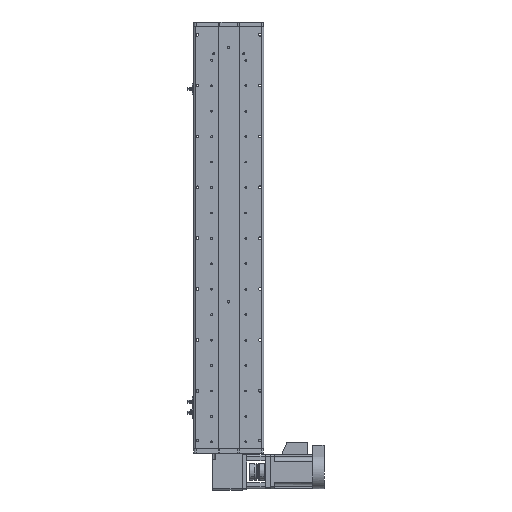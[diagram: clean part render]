
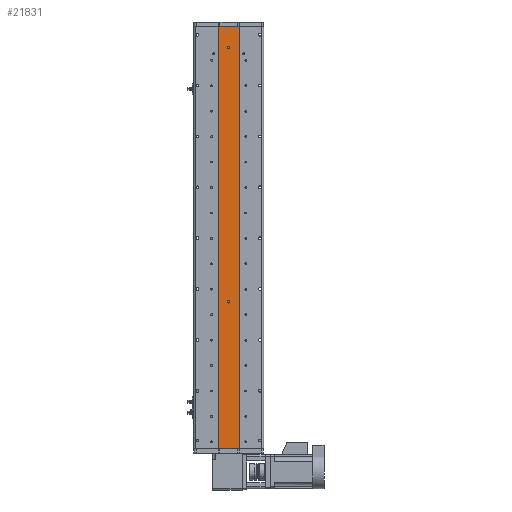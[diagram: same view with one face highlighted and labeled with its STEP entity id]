
A CAD part, front view. The second image highlights one B-rep face of the part: STEP entity #21831.
In plain terms, the highlighted planar face has unit normal (0, -1, 0).
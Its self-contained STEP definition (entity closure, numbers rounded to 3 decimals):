
#615 = VERTEX_POINT ( 'NONE', #14336 ) ;
#869 = DIRECTION ( 'NONE',  ( 0., 0., -1. ) ) ;
#1078 = CIRCLE ( 'NONE', #29830, 3. ) ;
#1245 = VECTOR ( 'NONE', #36750, 1000. ) ;
#1642 = VECTOR ( 'NONE', #33367, 1000. ) ;
#2089 = CARTESIAN_POINT ( 'NONE',  ( 0., 1., -154.5 ) ) ;
#4620 = PLANE ( 'NONE',  #13255 ) ;
#5405 = VECTOR ( 'NONE', #18581, 1000. ) ;
#5518 = CARTESIAN_POINT ( 'NONE',  ( 0., 1., 445.5 ) ) ;
#6028 = CARTESIAN_POINT ( 'NONE',  ( 0., 1., 448.5 ) ) ;
#7107 = DIRECTION ( 'NONE',  ( 0., -1., 0. ) ) ;
#7763 = ORIENTED_EDGE ( 'NONE', *, *, #16378, .T. ) ;
#7966 = VERTEX_POINT ( 'NONE', #18527 ) ;
#9178 = VERTEX_POINT ( 'NONE', #47768 ) ;
#9774 = DIRECTION ( 'NONE',  ( 0., 0., -1. ) ) ;
#10697 = CIRCLE ( 'NONE', #41801, 3. ) ;
#10849 = CIRCLE ( 'NONE', #35154, 3. ) ;
#10963 = FACE_BOUND ( 'NONE', #44994, .T. ) ;
#11089 = CARTESIAN_POINT ( 'NONE',  ( -25., 1., 498.5 ) ) ;
#12717 = LINE ( 'NONE', #26960, #32487 ) ;
#13255 = AXIS2_PLACEMENT_3D ( 'NONE', #26963, #38139, #15908 ) ;
#14336 = CARTESIAN_POINT ( 'NONE',  ( 0., 1., -148.5 ) ) ;
#14893 = VERTEX_POINT ( 'NONE', #46386 ) ;
#15134 = ORIENTED_EDGE ( 'NONE', *, *, #46894, .F. ) ;
#15572 = DIRECTION ( 'NONE',  ( 0., -1., 0. ) ) ;
#15908 = DIRECTION ( 'NONE',  ( 0., 0., 1. ) ) ;
#16378 = EDGE_CURVE ( 'NONE', #7966, #42745, #35425, .T. ) ;
#16629 = DIRECTION ( 'NONE',  ( 0., -1., 0. ) ) ;
#18527 = CARTESIAN_POINT ( 'NONE',  ( -25., 1., 498.5 ) ) ;
#18581 = DIRECTION ( 'NONE',  ( 1., 0., 0. ) ) ;
#19143 = VERTEX_POINT ( 'NONE', #2089 ) ;
#19857 = ORIENTED_EDGE ( 'NONE', *, *, #24339, .F. ) ;
#20466 = EDGE_LOOP ( 'NONE', ( #15134, #28542 ) ) ;
#20882 = FACE_OUTER_BOUND ( 'NONE', #23641, .T. ) ;
#21173 = AXIS2_PLACEMENT_3D ( 'NONE', #29423, #7107, #33157 ) ;
#21831 = ADVANCED_FACE ( 'NONE', ( #31917, #10963, #20882 ), #4620, .F. ) ;
#22836 = ORIENTED_EDGE ( 'NONE', *, *, #23868, .T. ) ;
#23641 = EDGE_LOOP ( 'NONE', ( #22836, #45429, #32800, #7763 ) ) ;
#23868 = EDGE_CURVE ( 'NONE', #42745, #42018, #25243, .T. ) ;
#24339 = EDGE_CURVE ( 'NONE', #615, #19143, #46736, .T. ) ;
#25243 = LINE ( 'NONE', #33517, #5405 ) ;
#25682 = ORIENTED_EDGE ( 'NONE', *, *, #44233, .F. ) ;
#26960 = CARTESIAN_POINT ( 'NONE',  ( 25., 1., 498.5 ) ) ;
#26963 = CARTESIAN_POINT ( 'NONE',  ( 25., 1., 498.5 ) ) ;
#28542 = ORIENTED_EDGE ( 'NONE', *, *, #48109, .F. ) ;
#29423 = CARTESIAN_POINT ( 'NONE',  ( 0., 1., -151.5 ) ) ;
#29697 = VERTEX_POINT ( 'NONE', #5518 ) ;
#29806 = LINE ( 'NONE', #40573, #1245 ) ;
#29830 = AXIS2_PLACEMENT_3D ( 'NONE', #6028, #32057, #9774 ) ;
#31917 = FACE_BOUND ( 'NONE', #20466, .T. ) ;
#32057 = DIRECTION ( 'NONE',  ( 0., -1., 0. ) ) ;
#32487 = VECTOR ( 'NONE', #869, 1000. ) ;
#32800 = ORIENTED_EDGE ( 'NONE', *, *, #34589, .F. ) ;
#32976 = EDGE_CURVE ( 'NONE', #9178, #42018, #12717, .T. ) ;
#33157 = DIRECTION ( 'NONE',  ( 0., 0., -1. ) ) ;
#33367 = DIRECTION ( 'NONE',  ( 0., 0., -1. ) ) ;
#33517 = CARTESIAN_POINT ( 'NONE',  ( 25., 1., -498.5 ) ) ;
#34589 = EDGE_CURVE ( 'NONE', #7966, #9178, #29806, .T. ) ;
#35154 = AXIS2_PLACEMENT_3D ( 'NONE', #38849, #16629, #42540 ) ;
#35425 = LINE ( 'NONE', #11089, #1642 ) ;
#36750 = DIRECTION ( 'NONE',  ( 1., 0., 0. ) ) ;
#37820 = CARTESIAN_POINT ( 'NONE',  ( 0., 1., -151.5 ) ) ;
#38139 = DIRECTION ( 'NONE',  ( 0., 1., 0. ) ) ;
#38849 = CARTESIAN_POINT ( 'NONE',  ( 0., 1., 448.5 ) ) ;
#40573 = CARTESIAN_POINT ( 'NONE',  ( 25., 1., 498.5 ) ) ;
#41006 = CARTESIAN_POINT ( 'NONE',  ( 25., 1., -498.5 ) ) ;
#41488 = DIRECTION ( 'NONE',  ( 0., 0., -1. ) ) ;
#41801 = AXIS2_PLACEMENT_3D ( 'NONE', #37820, #15572, #41488 ) ;
#42018 = VERTEX_POINT ( 'NONE', #41006 ) ;
#42540 = DIRECTION ( 'NONE',  ( 0., 0., -1. ) ) ;
#42745 = VERTEX_POINT ( 'NONE', #43813 ) ;
#43813 = CARTESIAN_POINT ( 'NONE',  ( -25., 1., -498.5 ) ) ;
#44233 = EDGE_CURVE ( 'NONE', #19143, #615, #10697, .T. ) ;
#44994 = EDGE_LOOP ( 'NONE', ( #25682, #19857 ) ) ;
#45429 = ORIENTED_EDGE ( 'NONE', *, *, #32976, .F. ) ;
#46386 = CARTESIAN_POINT ( 'NONE',  ( 0., 1., 451.5 ) ) ;
#46736 = CIRCLE ( 'NONE', #21173, 3. ) ;
#46894 = EDGE_CURVE ( 'NONE', #29697, #14893, #1078, .T. ) ;
#47768 = CARTESIAN_POINT ( 'NONE',  ( 25., 1., 498.5 ) ) ;
#48109 = EDGE_CURVE ( 'NONE', #14893, #29697, #10849, .T. ) ;
